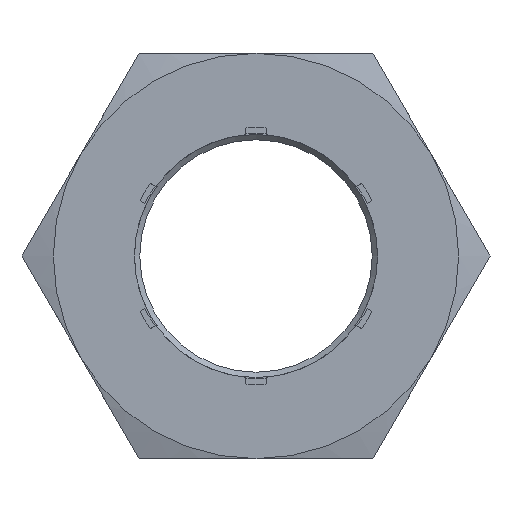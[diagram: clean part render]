
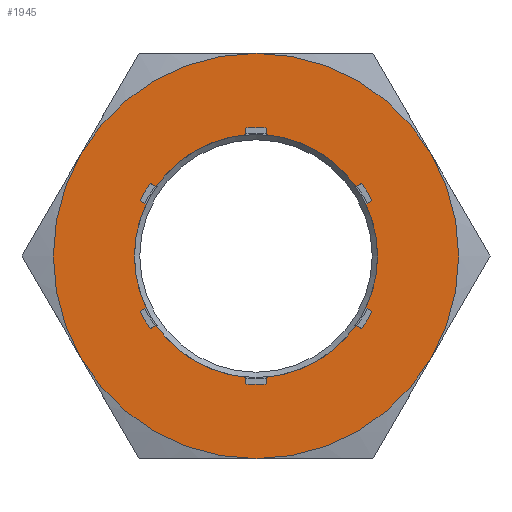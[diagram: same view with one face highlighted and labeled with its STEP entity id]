
A CAD part, left-side view. The second image highlights one B-rep face of the part: STEP entity #1945.
In plain terms, the highlighted planar face has unit normal (-1, 0, 0).
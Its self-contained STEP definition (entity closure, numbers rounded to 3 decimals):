
#35=PLANE('',#2092);
#80=LINE('',#2958,#170);
#81=LINE('',#2963,#171);
#82=LINE('',#2967,#172);
#83=LINE('',#2971,#173);
#84=LINE('',#2975,#174);
#85=LINE('',#2979,#175);
#86=LINE('',#2983,#176);
#87=LINE('',#2987,#177);
#88=LINE('',#2991,#178);
#89=LINE('',#2995,#179);
#90=LINE('',#2999,#180);
#91=LINE('',#3003,#181);
#170=VECTOR('',#2345,1000.);
#171=VECTOR('',#2348,1000.);
#172=VECTOR('',#2351,1000.);
#173=VECTOR('',#2354,1000.);
#174=VECTOR('',#2357,1000.);
#175=VECTOR('',#2360,1000.);
#176=VECTOR('',#2363,1000.);
#177=VECTOR('',#2366,1000.);
#178=VECTOR('',#2369,1000.);
#179=VECTOR('',#2372,1000.);
#180=VECTOR('',#2375,1000.);
#181=VECTOR('',#2378,1000.);
#278=CIRCLE('',#2074,15.);
#279=CIRCLE('',#2076,15.);
#280=CIRCLE('',#2078,15.);
#281=CIRCLE('',#2080,15.);
#282=CIRCLE('',#2082,15.);
#290=CIRCLE('',#2093,9.);
#291=CIRCLE('',#2094,9.5);
#292=CIRCLE('',#2095,9.);
#293=CIRCLE('',#2096,9.5);
#294=CIRCLE('',#2097,9.);
#295=CIRCLE('',#2098,9.5);
#296=CIRCLE('',#2099,9.);
#297=CIRCLE('',#2100,9.5);
#298=CIRCLE('',#2101,9.);
#299=CIRCLE('',#2102,9.5);
#300=CIRCLE('',#2103,9.);
#301=CIRCLE('',#2104,9.5);
#302=CIRCLE('',#2105,15.);
#426=ORIENTED_EDGE('',*,*,#1051,.T.);
#427=ORIENTED_EDGE('',*,*,#1052,.T.);
#428=ORIENTED_EDGE('',*,*,#1053,.T.);
#429=ORIENTED_EDGE('',*,*,#1054,.T.);
#430=ORIENTED_EDGE('',*,*,#1055,.T.);
#431=ORIENTED_EDGE('',*,*,#1056,.T.);
#432=ORIENTED_EDGE('',*,*,#1057,.T.);
#433=ORIENTED_EDGE('',*,*,#1058,.T.);
#434=ORIENTED_EDGE('',*,*,#1059,.T.);
#435=ORIENTED_EDGE('',*,*,#1060,.T.);
#436=ORIENTED_EDGE('',*,*,#1061,.T.);
#437=ORIENTED_EDGE('',*,*,#1062,.T.);
#438=ORIENTED_EDGE('',*,*,#1063,.T.);
#439=ORIENTED_EDGE('',*,*,#1064,.T.);
#440=ORIENTED_EDGE('',*,*,#1065,.T.);
#441=ORIENTED_EDGE('',*,*,#1066,.T.);
#442=ORIENTED_EDGE('',*,*,#1067,.T.);
#443=ORIENTED_EDGE('',*,*,#1068,.T.);
#444=ORIENTED_EDGE('',*,*,#1069,.T.);
#445=ORIENTED_EDGE('',*,*,#1070,.T.);
#446=ORIENTED_EDGE('',*,*,#1071,.T.);
#447=ORIENTED_EDGE('',*,*,#1072,.T.);
#448=ORIENTED_EDGE('',*,*,#1073,.T.);
#449=ORIENTED_EDGE('',*,*,#1074,.T.);
#450=ORIENTED_EDGE('',*,*,#1026,.F.);
#451=ORIENTED_EDGE('',*,*,#1023,.F.);
#452=ORIENTED_EDGE('',*,*,#1032,.F.);
#453=ORIENTED_EDGE('',*,*,#1075,.F.);
#454=ORIENTED_EDGE('',*,*,#1034,.F.);
#455=ORIENTED_EDGE('',*,*,#1028,.F.);
#1023=EDGE_CURVE('',#1332,#1331,#278,.T.);
#1026=EDGE_CURVE('',#1331,#1334,#279,.T.);
#1028=EDGE_CURVE('',#1334,#1336,#280,.T.);
#1032=EDGE_CURVE('',#1338,#1332,#281,.T.);
#1034=EDGE_CURVE('',#1336,#1340,#282,.T.);
#1051=EDGE_CURVE('',#1355,#1356,#80,.T.);
#1052=EDGE_CURVE('',#1356,#1357,#290,.T.);
#1053=EDGE_CURVE('',#1357,#1358,#81,.T.);
#1054=EDGE_CURVE('',#1358,#1359,#291,.T.);
#1055=EDGE_CURVE('',#1359,#1360,#82,.T.);
#1056=EDGE_CURVE('',#1360,#1361,#292,.T.);
#1057=EDGE_CURVE('',#1361,#1362,#83,.T.);
#1058=EDGE_CURVE('',#1362,#1363,#293,.T.);
#1059=EDGE_CURVE('',#1363,#1364,#84,.T.);
#1060=EDGE_CURVE('',#1364,#1365,#294,.T.);
#1061=EDGE_CURVE('',#1365,#1366,#85,.T.);
#1062=EDGE_CURVE('',#1366,#1367,#295,.T.);
#1063=EDGE_CURVE('',#1367,#1368,#86,.T.);
#1064=EDGE_CURVE('',#1368,#1369,#296,.T.);
#1065=EDGE_CURVE('',#1369,#1370,#87,.T.);
#1066=EDGE_CURVE('',#1370,#1371,#297,.T.);
#1067=EDGE_CURVE('',#1371,#1372,#88,.T.);
#1068=EDGE_CURVE('',#1372,#1373,#298,.T.);
#1069=EDGE_CURVE('',#1373,#1374,#89,.T.);
#1070=EDGE_CURVE('',#1374,#1375,#299,.T.);
#1071=EDGE_CURVE('',#1375,#1376,#90,.T.);
#1072=EDGE_CURVE('',#1376,#1377,#300,.T.);
#1073=EDGE_CURVE('',#1377,#1378,#91,.T.);
#1074=EDGE_CURVE('',#1378,#1355,#301,.T.);
#1075=EDGE_CURVE('',#1340,#1338,#302,.T.);
#1331=VERTEX_POINT('',#2865);
#1332=VERTEX_POINT('',#2870);
#1334=VERTEX_POINT('',#2878);
#1336=VERTEX_POINT('',#2891);
#1338=VERTEX_POINT('',#2906);
#1340=VERTEX_POINT('',#2915);
#1355=VERTEX_POINT('',#2959);
#1356=VERTEX_POINT('',#2960);
#1357=VERTEX_POINT('',#2962);
#1358=VERTEX_POINT('',#2964);
#1359=VERTEX_POINT('',#2966);
#1360=VERTEX_POINT('',#2968);
#1361=VERTEX_POINT('',#2970);
#1362=VERTEX_POINT('',#2972);
#1363=VERTEX_POINT('',#2974);
#1364=VERTEX_POINT('',#2976);
#1365=VERTEX_POINT('',#2978);
#1366=VERTEX_POINT('',#2980);
#1367=VERTEX_POINT('',#2982);
#1368=VERTEX_POINT('',#2984);
#1369=VERTEX_POINT('',#2986);
#1370=VERTEX_POINT('',#2988);
#1371=VERTEX_POINT('',#2990);
#1372=VERTEX_POINT('',#2992);
#1373=VERTEX_POINT('',#2994);
#1374=VERTEX_POINT('',#2996);
#1375=VERTEX_POINT('',#2998);
#1376=VERTEX_POINT('',#3000);
#1377=VERTEX_POINT('',#3002);
#1378=VERTEX_POINT('',#3004);
#1652=EDGE_LOOP('',(#426,#427,#428,#429,#430,#431,#432,#433,#434,#435,#436,
#437,#438,#439,#440,#441,#442,#443,#444,#445,#446,#447,#448,#449));
#1653=EDGE_LOOP('',(#450,#451,#452,#453,#454,#455));
#1776=FACE_BOUND('',#1652,.T.);
#1777=FACE_BOUND('',#1653,.T.);
#1945=ADVANCED_FACE('',(#1776,#1777),#35,.T.);
#2074=AXIS2_PLACEMENT_3D('',#2871,#2301,#2302);
#2076=AXIS2_PLACEMENT_3D('',#2883,#2305,#2306);
#2078=AXIS2_PLACEMENT_3D('',#2890,#2309,#2310);
#2080=AXIS2_PLACEMENT_3D('',#2907,#2313,#2314);
#2082=AXIS2_PLACEMENT_3D('',#2914,#2317,#2318);
#2092=AXIS2_PLACEMENT_3D('',#2957,#2343,#2344);
#2093=AXIS2_PLACEMENT_3D('',#2961,#2346,#2347);
#2094=AXIS2_PLACEMENT_3D('',#2965,#2349,#2350);
#2095=AXIS2_PLACEMENT_3D('',#2969,#2352,#2353);
#2096=AXIS2_PLACEMENT_3D('',#2973,#2355,#2356);
#2097=AXIS2_PLACEMENT_3D('',#2977,#2358,#2359);
#2098=AXIS2_PLACEMENT_3D('',#2981,#2361,#2362);
#2099=AXIS2_PLACEMENT_3D('',#2985,#2364,#2365);
#2100=AXIS2_PLACEMENT_3D('',#2989,#2367,#2368);
#2101=AXIS2_PLACEMENT_3D('',#2993,#2370,#2371);
#2102=AXIS2_PLACEMENT_3D('',#2997,#2373,#2374);
#2103=AXIS2_PLACEMENT_3D('',#3001,#2376,#2377);
#2104=AXIS2_PLACEMENT_3D('',#3005,#2379,#2380);
#2105=AXIS2_PLACEMENT_3D('',#3006,#2381,#2382);
#2301=DIRECTION('',(1.,0.,0.));
#2302=DIRECTION('',(0.,0.,-1.));
#2305=DIRECTION('',(1.,0.,0.));
#2306=DIRECTION('',(0.,0.,-1.));
#2309=DIRECTION('',(1.,0.,0.));
#2310=DIRECTION('',(0.,0.,-1.));
#2313=DIRECTION('',(1.,0.,0.));
#2314=DIRECTION('',(0.,0.,-1.));
#2317=DIRECTION('',(1.,0.,0.));
#2318=DIRECTION('',(0.,0.,-1.));
#2343=DIRECTION('',(-1.,0.,0.));
#2344=DIRECTION('',(0.,0.,1.));
#2345=DIRECTION('',(0.,-0.866,0.5));
#2346=DIRECTION('',(1.,0.,0.));
#2347=DIRECTION('',(0.,0.,-1.));
#2348=DIRECTION('',(0.,0.866,0.5));
#2349=DIRECTION('',(1.,0.,0.));
#2350=DIRECTION('',(0.,0.,-1.));
#2351=DIRECTION('',(0.,-0.866,-0.5));
#2352=DIRECTION('',(1.,0.,0.));
#2353=DIRECTION('',(0.,0.,-1.));
#2354=DIRECTION('',(0.,0.,1.));
#2355=DIRECTION('',(1.,0.,0.));
#2356=DIRECTION('',(0.,0.,-1.));
#2357=DIRECTION('',(0.,0.,-1.));
#2358=DIRECTION('',(1.,0.,0.));
#2359=DIRECTION('',(0.,0.,-1.));
#2360=DIRECTION('',(0.,-0.866,0.5));
#2361=DIRECTION('',(1.,0.,0.));
#2362=DIRECTION('',(0.,0.,-1.));
#2363=DIRECTION('',(0.,0.866,-0.5));
#2364=DIRECTION('',(1.,0.,0.));
#2365=DIRECTION('',(0.,0.,-1.));
#2366=DIRECTION('',(0.,-0.866,-0.5));
#2367=DIRECTION('',(1.,0.,0.));
#2368=DIRECTION('',(0.,0.,-1.));
#2369=DIRECTION('',(0.,0.866,0.5));
#2370=DIRECTION('',(1.,0.,0.));
#2371=DIRECTION('',(0.,0.,-1.));
#2372=DIRECTION('',(0.,0.,-1.));
#2373=DIRECTION('',(1.,0.,0.));
#2374=DIRECTION('',(0.,0.,-1.));
#2375=DIRECTION('',(0.,0.,1.));
#2376=DIRECTION('',(1.,0.,0.));
#2377=DIRECTION('',(0.,0.,-1.));
#2378=DIRECTION('',(0.,0.866,-0.5));
#2379=DIRECTION('',(1.,0.,0.));
#2380=DIRECTION('',(0.,0.,-1.));
#2381=DIRECTION('',(1.,0.,0.));
#2382=DIRECTION('',(0.,0.,-1.));
#2865=CARTESIAN_POINT('',(0.,12.99,-7.5));
#2870=CARTESIAN_POINT('',(0.,0.,-15.));
#2871=CARTESIAN_POINT('',(0.,0.,0.));
#2878=CARTESIAN_POINT('',(0.,12.99,7.5));
#2883=CARTESIAN_POINT('',(0.,0.,0.));
#2890=CARTESIAN_POINT('',(0.,0.,0.));
#2891=CARTESIAN_POINT('',(0.,0.,15.));
#2906=CARTESIAN_POINT('',(0.,-12.99,-7.5));
#2907=CARTESIAN_POINT('',(0.,0.,0.));
#2914=CARTESIAN_POINT('',(0.,0.,0.));
#2915=CARTESIAN_POINT('',(0.,-12.99,7.5));
#2957=CARTESIAN_POINT('',(0.,9.55,0.));
#2958=CARTESIAN_POINT('',(0.,13.349,-6.841));
#2959=CARTESIAN_POINT('',(0.,8.577,-4.086));
#2960=CARTESIAN_POINT('',(0.,8.142,-3.835));
#2961=CARTESIAN_POINT('',(0.,0.,0.));
#2962=CARTESIAN_POINT('',(0.,8.142,3.835));
#2963=CARTESIAN_POINT('',(0.,1.5,0.));
#2964=CARTESIAN_POINT('',(0.,8.577,4.086));
#2965=CARTESIAN_POINT('',(0.,0.,0.));
#2966=CARTESIAN_POINT('',(0.,7.827,5.385));
#2967=CARTESIAN_POINT('',(0.,12.599,8.14));
#2968=CARTESIAN_POINT('',(0.,7.392,5.134));
#2969=CARTESIAN_POINT('',(0.,0.,0.));
#2970=CARTESIAN_POINT('',(0.,0.75,8.969));
#2971=CARTESIAN_POINT('',(0.,0.75,1.299));
#2972=CARTESIAN_POINT('',(0.,0.75,9.47));
#2973=CARTESIAN_POINT('',(0.,0.,0.));
#2974=CARTESIAN_POINT('',(0.,-0.75,9.47));
#2975=CARTESIAN_POINT('',(0.,-0.75,14.981));
#2976=CARTESIAN_POINT('',(0.,-0.75,8.969));
#2977=CARTESIAN_POINT('',(0.,0.,0.));
#2978=CARTESIAN_POINT('',(0.,-7.392,5.134));
#2979=CARTESIAN_POINT('',(0.,-0.75,1.299));
#2980=CARTESIAN_POINT('',(0.,-7.827,5.385));
#2981=CARTESIAN_POINT('',(0.,0.,0.));
#2982=CARTESIAN_POINT('',(0.,-8.577,4.086));
#2983=CARTESIAN_POINT('',(0.,-13.349,6.841));
#2984=CARTESIAN_POINT('',(0.,-8.142,3.835));
#2985=CARTESIAN_POINT('',(0.,0.,0.));
#2986=CARTESIAN_POINT('',(0.,-8.142,-3.835));
#2987=CARTESIAN_POINT('',(0.,-1.5,0.));
#2988=CARTESIAN_POINT('',(0.,-8.577,-4.086));
#2989=CARTESIAN_POINT('',(0.,0.,0.));
#2990=CARTESIAN_POINT('',(0.,-7.827,-5.385));
#2991=CARTESIAN_POINT('',(0.,-12.599,-8.14));
#2992=CARTESIAN_POINT('',(0.,-7.392,-5.134));
#2993=CARTESIAN_POINT('',(0.,0.,0.));
#2994=CARTESIAN_POINT('',(0.,-0.75,-8.969));
#2995=CARTESIAN_POINT('',(0.,-0.75,-1.299));
#2996=CARTESIAN_POINT('',(0.,-0.75,-9.47));
#2997=CARTESIAN_POINT('',(0.,0.,0.));
#2998=CARTESIAN_POINT('',(0.,0.75,-9.47));
#2999=CARTESIAN_POINT('',(0.,0.75,-14.981));
#3000=CARTESIAN_POINT('',(0.,0.75,-8.969));
#3001=CARTESIAN_POINT('',(0.,0.,0.));
#3002=CARTESIAN_POINT('',(0.,7.392,-5.134));
#3003=CARTESIAN_POINT('',(0.,0.75,-1.299));
#3004=CARTESIAN_POINT('',(0.,7.827,-5.385));
#3005=CARTESIAN_POINT('',(0.,0.,0.));
#3006=CARTESIAN_POINT('',(0.,0.,0.));
